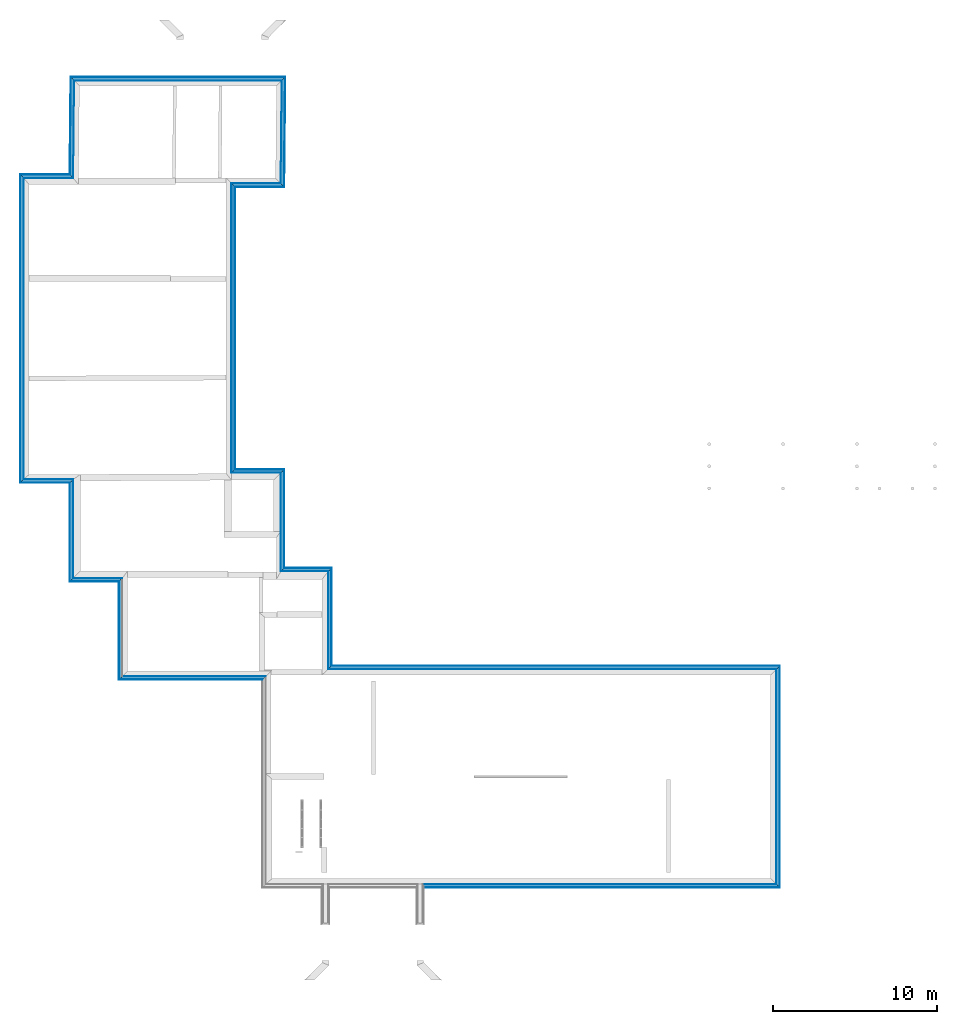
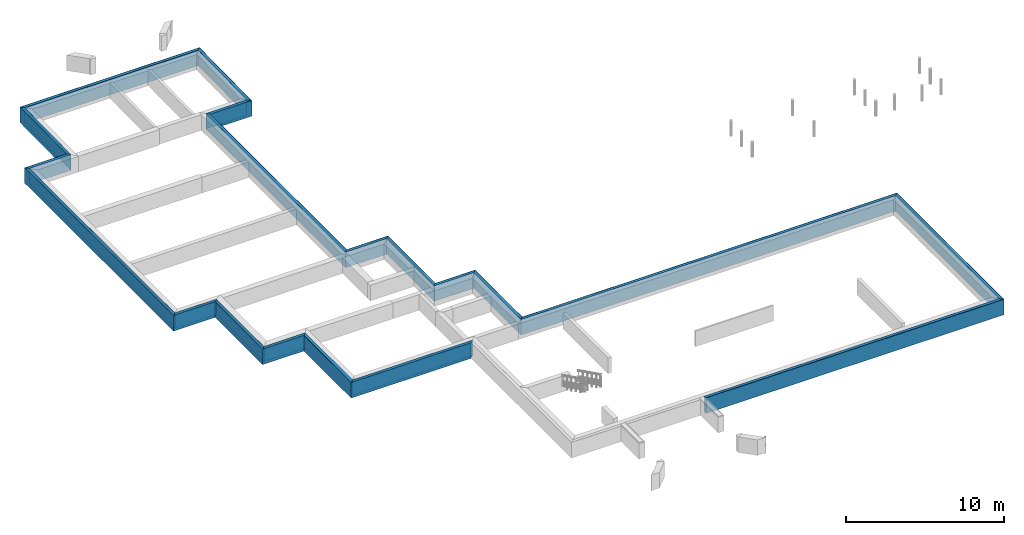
# One storey, part 12 of 16: 56 building element parts, 19 elements without a shape of their own.
"""IFC2X3 building model written with IfcOpenShell, lengths in millimetres."""

from ifc_helpers import new_model, entity, si_unit, converted_unit, derived_unit, money_unit, direction, frame, origin_with_axes, place, context, subcontext, project, spatial, polyline, outline, extrude, material, type_object, element, aggregate, save


model = new_model("IFC2X3")

# Units and contexts
model_context = context("Model", 3, precision=0.01, world=origin_with_axes(), true_north=direction((0.0, 1.0)))
body_context = subcontext(model_context, "Body", "Model", "MODEL_VIEW")
ifc_project = project(units=[si_unit("LENGTHUNIT", "METRE", prefix="MILLI"), si_unit("AREAUNIT", "SQUARE_METRE"), si_unit("VOLUMEUNIT", "CUBIC_METRE"), converted_unit("PLANEANGLEUNIT", "DEGREE", entity("IfcPlaneAngleMeasure", 0.0174532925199), si_unit("PLANEANGLEUNIT", "RADIAN"), dimensions=[0, 0, 0, 0, 0, 0, 0]), si_unit("SOLIDANGLEUNIT", "STERADIAN"), money_unit("EUR"), converted_unit("TIMEUNIT", "Year", entity("IfcTimeMeasure", 31556926.0), si_unit("TIMEUNIT", "SECOND"), dimensions=[0, 0, 1, 0, 0, 0, 0]), si_unit("MASSUNIT", "GRAM", prefix="KILO"), si_unit("THERMODYNAMICTEMPERATUREUNIT", "DEGREE_CELSIUS"), si_unit("LUMINOUSINTENSITYUNIT", "LUMEN"), si_unit("ENERGYUNIT", "JOULE", prefix="MEGA"), derived_unit("THERMALCONDUCTANCEUNIT", [(si_unit("POWERUNIT", "WATT"), 1), (si_unit("LENGTHUNIT", "METRE"), -1), (si_unit("THERMODYNAMICTEMPERATUREUNIT", "KELVIN"), -1)]), derived_unit("SPECIFICHEATCAPACITYUNIT", [(si_unit("ENERGYUNIT", "JOULE"), 1), (si_unit("MASSUNIT", "GRAM", prefix="KILO"), -1), (si_unit("THERMODYNAMICTEMPERATUREUNIT", "KELVIN"), -1)]), derived_unit("MASSDENSITYUNIT", [(si_unit("MASSUNIT", "GRAM", prefix="KILO"), 1), (si_unit("VOLUMEUNIT", "CUBIC_METRE"), -1)])], contexts=[model_context])

# Site, building, storey
site_placement = place(None, origin_with_axes())
site = spatial("IfcSite", under=ifc_project, at=site_placement, Name="Paldiski mnt 245/1, Tallinn, Harjumaa", CompositionType="COMPLEX")
building_placement = place(site_placement, origin_with_axes())
building = spatial("IfcBuilding", under=site, at=building_placement, Name="RKAS Hoone üldnimetus (kasutust iseloomustav) -> IFC Project Manager -> SOLIBRI", CompositionType="ELEMENT")
storey_placement = place(building_placement, frame((0.0, 0.0, -1200.0), z_axis=(0.0, 0.0, 1.0), x_axis=(1.0, 0.0, 0.0)))
storey = spatial("IfcBuildingStorey", under=building, at=storey_placement, Name="Vundament", CompositionType="ELEMENT", Elevation=-1200.0)

# Wall, building element parts
wall_type = type_object("IfcWallType", Name="VS-01 221", PredefinedType="NOTDEFINED")
wall_1_placement = place(storey_placement, frame((-59705.9835288, 30149.8287244, 0.0), z_axis=(0.0, 0.0, 1.0), x_axis=(-1.0, 0.0, 0.0)))
wall_1 = element("IfcWall", 1, at=wall_1_placement, inside=storey, type_object=wall_type, Name="VS-01")
ifc_material_1 = material(Name="Võõphüdroisolatsioon")
building_element_part_1_placement = place(wall_1_placement, origin_with_axes())
building_element_part_1 = element("IfcBuildingElementPart", 2, at=building_element_part_1_placement, material=ifc_material_1, Name="Võõphüdroisolatsioon", context=body_context, shape_type="SweptSolid", body=[
    extrude(outline(polyline([(0.98996898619, -1.0), (3025.01647115, -1.0), (3024.01647115, 0.0), (0.0, 0.0), (0.98996898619, -1.0)])), origin_with_axes(), (0.0, 0.0, 1.0), 1200.0),
])
ifc_material_2 = material(Name="EPS 120 Perimeeter")
building_element_part_2_placement = place(wall_1_placement, origin_with_axes())
building_element_part_2 = element("IfcBuildingElementPart", 3, at=building_element_part_2_placement, material=ifc_material_2, Name="EPS 120 Perimeeter", context=body_context, shape_type="SweptSolid", body=[
    extrude(outline(polyline([(198.983766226, -201.0), (3225.01647115, -201.0), (3025.01647115, -1.0), (0.98996898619, -1.0), (198.983766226, -201.0)])), origin_with_axes(), (0.0, 0.0, 1.0), 1200.0),
])
ifc_material_3 = material(Name="Krohvisüsteem Weber vms")
building_element_part_3_placement = place(wall_1_placement, origin_with_axes())
building_element_part_3 = element("IfcBuildingElementPart", 4, at=building_element_part_3_placement, material=ifc_material_3, Name="Krohvisüsteem Weber vms", context=body_context, shape_type="SweptSolid", body=[
    extrude(outline(polyline([(218.78314595, -221.0), (3245.01647115, -221.0), (3225.01647115, -201.0), (198.983766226, -201.0), (218.78314595, -221.0)])), origin_with_axes(), (0.0, 0.0, 1.0), 1200.0),
])
aggregate(wall_1, [building_element_part_1, building_element_part_2, building_element_part_3])

wall_2_placement = place(storey_placement, frame((-62730.0, 30149.8287244, 0.0), z_axis=(0.0, 0.0, 1.0), x_axis=(0.0, -1.0, 0.0)))
wall_2 = element("IfcWall", 5, at=wall_2_placement, inside=storey, type_object=wall_type, Name="VS-01")
building_element_part_4_placement = place(wall_2_placement, origin_with_axes())
building_element_part_4 = element("IfcBuildingElementPart", 6, at=building_element_part_4_placement, material=ifc_material_1, Name="Võõphüdroisolatsioon", context=body_context, shape_type="SweptSolid", body=[
    extrude(outline(polyline([(-1.0, -0.999999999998), (18351.0, -0.999999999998), (18350.0, 0.0), (0.0, 0.0), (-1.0, -0.999999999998)])), origin_with_axes(), (0.0, 0.0, 1.0), 1200.0),
])
building_element_part_5_placement = place(wall_2_placement, origin_with_axes())
building_element_part_5 = element("IfcBuildingElementPart", 7, at=building_element_part_5_placement, material=ifc_material_2, Name="EPS 120 Perimeeter", context=body_context, shape_type="SweptSolid", body=[
    extrude(outline(polyline([(-201.0, -201.0), (18551.0, -201.0), (18351.0, -0.999999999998), (-1.0, -0.999999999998), (-201.0, -201.0)])), origin_with_axes(), (0.0, 0.0, 1.0), 1200.0),
])
building_element_part_6_placement = place(wall_2_placement, origin_with_axes())
building_element_part_6 = element("IfcBuildingElementPart", 8, at=building_element_part_6_placement, material=ifc_material_3, Name="Krohvisüsteem Weber vms", context=body_context, shape_type="SweptSolid", body=[
    extrude(outline(polyline([(-221.0, -221.0), (18571.0, -221.0), (18551.0, -201.0), (-201.0, -201.0), (-221.0, -221.0)])), origin_with_axes(), (0.0, 0.0, 1.0), 1200.0),
])
aggregate(wall_2, [building_element_part_4, building_element_part_5, building_element_part_6])

wall_3_placement = place(storey_placement, frame((-62730.0, 11799.8287244, 0.0), z_axis=(0.0, 0.0, 1.0), x_axis=(1.0, 0.0, 0.0)))
wall_3 = element("IfcWall", 9, at=wall_3_placement, inside=storey, type_object=wall_type, Name="VS-01")
building_element_part_7_placement = place(wall_3_placement, origin_with_axes())
building_element_part_7 = element("IfcBuildingElementPart", 10, at=building_element_part_7_placement, material=ifc_material_1, Name="Võõphüdroisolatsioon", context=body_context, shape_type="SweptSolid", body=[
    extrude(outline(polyline([(-0.999999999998, -0.999999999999), (3019.0, -0.999999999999), (3020.0, 0.0), (0.0, 0.0), (-0.999999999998, -0.999999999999)])), origin_with_axes(), (0.0, 0.0, 1.0), 1200.0),
])
building_element_part_8_placement = place(wall_3_placement, origin_with_axes())
building_element_part_8 = element("IfcBuildingElementPart", 11, at=building_element_part_8_placement, material=ifc_material_2, Name="EPS 120 Perimeeter", context=body_context, shape_type="SweptSolid", body=[
    extrude(outline(polyline([(-201.0, -201.0), (2819.0, -201.0), (3019.0, -0.999999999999), (-0.999999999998, -0.999999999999), (-201.0, -201.0)])), origin_with_axes(), (0.0, 0.0, 1.0), 1200.0),
])
building_element_part_9_placement = place(wall_3_placement, origin_with_axes())
building_element_part_9 = element("IfcBuildingElementPart", 12, at=building_element_part_9_placement, material=ifc_material_3, Name="Krohvisüsteem Weber vms", context=body_context, shape_type="SweptSolid", body=[
    extrude(outline(polyline([(-221.0, -221.0), (2799.0, -221.0), (2819.0, -201.0), (-201.0, -201.0), (-221.0, -221.0)])), origin_with_axes(), (0.0, 0.0, 1.0), 1200.0),
])
aggregate(wall_3, [building_element_part_7, building_element_part_8, building_element_part_9])

wall_4_placement = place(storey_placement, frame((-59710.0, 11799.8287244, 0.0), z_axis=(0.0, 0.0, 1.0), x_axis=(0.0, -1.0, 0.0)))
wall_4 = element("IfcWall", 13, at=wall_4_placement, inside=storey, type_object=wall_type, Name="VS-01")
building_element_part_10_placement = place(wall_4_placement, origin_with_axes())
building_element_part_10 = element("IfcBuildingElementPart", 14, at=building_element_part_10_placement, material=ifc_material_1, Name="Võõphüdroisolatsioon", context=body_context, shape_type="SweptSolid", body=[
    extrude(outline(polyline([(1.00000000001, -0.999999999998), (6010.82872435, -0.999999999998), (6009.82872435, 0.0), (0.0, 0.0), (1.00000000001, -0.999999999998)])), origin_with_axes(), (0.0, 0.0, 1.0), 1200.0),
])
building_element_part_11_placement = place(wall_4_placement, origin_with_axes())
building_element_part_11 = element("IfcBuildingElementPart", 15, at=building_element_part_11_placement, material=ifc_material_2, Name="EPS 120 Perimeeter", context=body_context, shape_type="SweptSolid", body=[
    extrude(outline(polyline([(201.0, -201.0), (6210.82872435, -201.0), (6010.82872435, -0.999999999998), (1.00000000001, -0.999999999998), (201.0, -201.0)])), origin_with_axes(), (0.0, 0.0, 1.0), 1200.0),
])
building_element_part_12_placement = place(wall_4_placement, origin_with_axes())
building_element_part_12 = element("IfcBuildingElementPart", 16, at=building_element_part_12_placement, material=ifc_material_3, Name="Krohvisüsteem Weber vms", context=body_context, shape_type="SweptSolid", body=[
    extrude(outline(polyline([(221.0, -221.0), (6230.82872435, -221.0), (6210.82872435, -201.0), (201.0, -201.0), (221.0, -221.0)])), origin_with_axes(), (0.0, 0.0, 1.0), 1200.0),
])
aggregate(wall_4, [building_element_part_10, building_element_part_11, building_element_part_12])

wall_5_placement = place(storey_placement, frame((-59710.0, 5790.0, 0.0), z_axis=(0.0, 0.0, 1.0), x_axis=(1.0, 0.0, 0.0)))
wall_5 = element("IfcWall", 17, at=wall_5_placement, inside=storey, type_object=wall_type, Name="VS-01")
building_element_part_13_placement = place(wall_5_placement, origin_with_axes())
building_element_part_13 = element("IfcBuildingElementPart", 18, at=building_element_part_13_placement, material=ifc_material_1, Name="Võõphüdroisolatsioon", context=body_context, shape_type="SweptSolid", body=[
    extrude(outline(polyline([(-1.0, -1.0), (2999.0, -1.0), (3000.0, 0.0), (0.0, 0.0), (-1.0, -1.0)])), origin_with_axes(), (0.0, 0.0, 1.0), 1200.0),
])
building_element_part_14_placement = place(wall_5_placement, origin_with_axes())
building_element_part_14 = element("IfcBuildingElementPart", 19, at=building_element_part_14_placement, material=ifc_material_2, Name="EPS 120 Perimeeter", context=body_context, shape_type="SweptSolid", body=[
    extrude(outline(polyline([(-201.0, -201.0), (2799.0, -201.0), (2999.0, -1.0), (-1.0, -1.0), (-201.0, -201.0)])), origin_with_axes(), (0.0, 0.0, 1.0), 1200.0),
])
building_element_part_15_placement = place(wall_5_placement, origin_with_axes())
building_element_part_15 = element("IfcBuildingElementPart", 20, at=building_element_part_15_placement, material=ifc_material_3, Name="Krohvisüsteem Weber vms", context=body_context, shape_type="SweptSolid", body=[
    extrude(outline(polyline([(-221.0, -221.0), (2779.0, -221.0), (2799.0, -201.0), (-201.0, -201.0), (-221.0, -221.0)])), origin_with_axes(), (0.0, 0.0, 1.0), 1200.0),
])
aggregate(wall_5, [building_element_part_13, building_element_part_14, building_element_part_15])

wall_6_placement = place(storey_placement, frame((-56710.0, 5790.0, 0.0), z_axis=(0.0, 0.0, 1.0), x_axis=(0.0, -1.0, 0.0)))
wall_6 = element("IfcWall", 21, at=wall_6_placement, inside=storey, type_object=wall_type, Name="VS-01")
building_element_part_16_placement = place(wall_6_placement, origin_with_axes())
building_element_part_16 = element("IfcBuildingElementPart", 22, at=building_element_part_16_placement, material=ifc_material_2, Name="EPS 120 Perimeeter", context=body_context, shape_type="SweptSolid", body=[
    extrude(outline(polyline([(201.0, -201.0), (6181.0, -201.0), (5981.0, -0.999999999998), (1.00000000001, -0.999999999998), (201.0, -201.0)])), origin_with_axes(), (0.0, 0.0, 1.0), 1200.0),
])
building_element_part_17_placement = place(wall_6_placement, origin_with_axes())
building_element_part_17 = element("IfcBuildingElementPart", 23, at=building_element_part_17_placement, material=ifc_material_3, Name="Krohvisüsteem Weber vms", context=body_context, shape_type="SweptSolid", body=[
    extrude(outline(polyline([(221.0, -221.0), (6201.0, -221.0), (6181.0, -201.0), (201.0, -201.0), (221.0, -221.0)])), origin_with_axes(), (0.0, 0.0, 1.0), 1200.0),
])
aggregate(wall_6, [building_element_part_16, building_element_part_17])

wall_7_placement = place(storey_placement, frame((-56710.0, -189.999999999, 0.0), z_axis=(0.0, 0.0, 1.0), x_axis=(1.0, 0.0, 0.0)))
wall_7 = element("IfcWall", 24, at=wall_7_placement, inside=storey, type_object=wall_type, Name="VS-01")
building_element_part_18_placement = place(wall_7_placement, origin_with_axes())
building_element_part_18 = element("IfcBuildingElementPart", 25, at=building_element_part_18_placement, material=ifc_material_1, Name="Võõphüdroisolatsioon", context=body_context, shape_type="SweptSolid", body=[
    extrude(outline(polyline([(-0.999999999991, -1.0), (8739.0, -1.0), (8740.0, 0.0), (0.0, 0.0), (-0.999999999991, -1.0)])), origin_with_axes(), (0.0, 0.0, 1.0), 1200.0),
])
building_element_part_19_placement = place(wall_7_placement, origin_with_axes())
building_element_part_19 = element("IfcBuildingElementPart", 26, at=building_element_part_19_placement, material=ifc_material_2, Name="EPS 120 Perimeeter", context=body_context, shape_type="SweptSolid", body=[
    extrude(outline(polyline([(-201.0, -201.0), (8539.0, -201.0), (8739.0, -1.0), (-0.999999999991, -1.0), (-201.0, -201.0)])), origin_with_axes(), (0.0, 0.0, 1.0), 1200.0),
])
building_element_part_20_placement = place(wall_7_placement, origin_with_axes())
building_element_part_20 = element("IfcBuildingElementPart", 27, at=building_element_part_20_placement, material=ifc_material_3, Name="Krohvisüsteem Weber vms", context=body_context, shape_type="SweptSolid", body=[
    extrude(outline(polyline([(-221.0, -221.0), (8519.0, -221.0), (8539.0, -201.0), (-201.0, -201.0), (-221.0, -221.0)])), origin_with_axes(), (0.0, 0.0, 1.0), 1200.0),
])
aggregate(wall_7, [building_element_part_18, building_element_part_19, building_element_part_20])

wall_8_placement = place(storey_placement, frame((-38420.0, -12850.0843011, 0.0), z_axis=(0.0, 0.0, 1.0), x_axis=(1.0, 0.0, 0.0)))
wall_8 = element("IfcWall", 28, at=wall_8_placement, inside=storey, type_object=wall_type, Name="VS-01")
building_element_part_21_placement = place(wall_8_placement, origin_with_axes())
building_element_part_21 = element("IfcBuildingElementPart", 29, at=building_element_part_21_placement, material=ifc_material_1, Name="Võõphüdroisolatsioon", context=body_context, shape_type="SweptSolid", body=[
    extrude(outline(polyline([(0.321266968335, -0.999999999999), (21531.0, -0.999999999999), (21530.0, 0.0), (0.0, 0.0), (0.321266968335, -0.999999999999)])), origin_with_axes(), (0.0, 0.0, 1.0), 1200.0),
])
building_element_part_22_placement = place(wall_8_placement, origin_with_axes())
building_element_part_22 = element("IfcBuildingElementPart", 30, at=building_element_part_22_placement, material=ifc_material_2, Name="EPS 120 Perimeeter", context=body_context, shape_type="SweptSolid", body=[
    extrude(outline(polyline([(64.5746606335, -201.0), (21731.0, -201.0), (21531.0, -0.999999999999), (0.321266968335, -0.999999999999), (64.5746606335, -201.0)])), origin_with_axes(), (0.0, 0.0, 1.0), 1200.0),
])
building_element_part_23_placement = place(wall_8_placement, origin_with_axes())
building_element_part_23 = element("IfcBuildingElementPart", 31, at=building_element_part_23_placement, material=ifc_material_3, Name="Krohvisüsteem Weber vms", context=body_context, shape_type="SweptSolid", body=[
    extrude(outline(polyline([(71.0, -221.0), (21751.0, -221.0), (21731.0, -201.0), (64.5746606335, -201.0), (71.0, -221.0)])), origin_with_axes(), (0.0, 0.0, 1.0), 1200.0),
])
aggregate(wall_8, [building_element_part_21, building_element_part_22, building_element_part_23])

wall_9_placement = place(storey_placement, frame((-16890.0, -12850.0843011, 0.0), z_axis=(0.0, 0.0, 1.0), x_axis=(0.0, 1.0, 0.0)))
wall_9 = element("IfcWall", 32, at=wall_9_placement, inside=storey, type_object=wall_type, Name="VS-01")
building_element_part_24_placement = place(wall_9_placement, origin_with_axes())
building_element_part_24 = element("IfcBuildingElementPart", 33, at=building_element_part_24_placement, material=ifc_material_1, Name="Võõphüdroisolatsioon", context=body_context, shape_type="SweptSolid", body=[
    extrude(outline(polyline([(-0.999999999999, -1.0), (13081.0843011, -1.0), (13080.0843011, 0.0), (0.0, 0.0), (-0.999999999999, -1.0)])), origin_with_axes(), (0.0, 0.0, 1.0), 1200.0),
])
building_element_part_25_placement = place(wall_9_placement, origin_with_axes())
building_element_part_25 = element("IfcBuildingElementPart", 34, at=building_element_part_25_placement, material=ifc_material_2, Name="EPS 120 Perimeeter", context=body_context, shape_type="SweptSolid", body=[
    extrude(outline(polyline([(-201.0, -201.0), (13281.0843011, -201.0), (13081.0843011, -1.0), (-0.999999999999, -1.0), (-201.0, -201.0)])), origin_with_axes(), (0.0, 0.0, 1.0), 1200.0),
])
building_element_part_26_placement = place(wall_9_placement, origin_with_axes())
building_element_part_26 = element("IfcBuildingElementPart", 35, at=building_element_part_26_placement, material=ifc_material_3, Name="Krohvisüsteem Weber vms", context=body_context, shape_type="SweptSolid", body=[
    extrude(outline(polyline([(-221.0, -221.0), (13301.0843011, -221.0), (13281.0843011, -201.0), (-201.0, -201.0), (-221.0, -221.0)])), origin_with_axes(), (0.0, 0.0, 1.0), 1200.0),
])
aggregate(wall_9, [building_element_part_24, building_element_part_25, building_element_part_26])

wall_10_placement = place(storey_placement, frame((-44180.5504586, 230.000000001, 0.0), z_axis=(0.0, 0.0, 1.0), x_axis=(0.0, 1.0, 0.0)))
wall_10 = element("IfcWall", 36, at=wall_10_placement, inside=storey, type_object=wall_type, Name="VS-01")
building_element_part_27_placement = place(wall_10_placement, origin_with_axes())
building_element_part_27 = element("IfcBuildingElementPart", 37, at=building_element_part_27_placement, material=ifc_material_1, Name="Võõphüdroisolatsioon", context=body_context, shape_type="SweptSolid", body=[
    extrude(outline(polyline([(0.999999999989, -0.999999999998), (5960.82872435, -0.999999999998), (5959.82872435, 0.0), (0.0, 0.0), (0.999999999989, -0.999999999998)])), origin_with_axes(), (0.0, 0.0, 1.0), 1200.0),
])
building_element_part_28_placement = place(wall_10_placement, origin_with_axes())
building_element_part_28 = element("IfcBuildingElementPart", 38, at=building_element_part_28_placement, material=ifc_material_2, Name="EPS 120 Perimeeter", context=body_context, shape_type="SweptSolid", body=[
    extrude(outline(polyline([(201.0, -201.0), (6160.82872435, -201.0), (5960.82872435, -0.999999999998), (0.999999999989, -0.999999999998), (201.0, -201.0)])), origin_with_axes(), (0.0, 0.0, 1.0), 1200.0),
])
building_element_part_29_placement = place(wall_10_placement, origin_with_axes())
building_element_part_29 = element("IfcBuildingElementPart", 39, at=building_element_part_29_placement, material=ifc_material_3, Name="Krohvisüsteem Weber vms", context=body_context, shape_type="SweptSolid", body=[
    extrude(outline(polyline([(221.0, -221.0), (6180.82872435, -221.0), (6160.82872435, -201.0), (201.0, -201.0), (221.0, -221.0)])), origin_with_axes(), (0.0, 0.0, 1.0), 1200.0),
])
aggregate(wall_10, [building_element_part_27, building_element_part_28, building_element_part_29])

wall_11_placement = place(storey_placement, frame((-44180.5504586, 6189.82872435, 0.0), z_axis=(0.0, 0.0, 1.0), x_axis=(-1.0, 0.0, 0.0)))
wall_11 = element("IfcWall", 40, at=wall_11_placement, inside=storey, type_object=wall_type, Name="VS-01")
building_element_part_30_placement = place(wall_11_placement, origin_with_axes())
building_element_part_30 = element("IfcBuildingElementPart", 41, at=building_element_part_30_placement, material=ifc_material_1, Name="Võõphüdroisolatsioon", context=body_context, shape_type="SweptSolid", body=[
    extrude(outline(polyline([(-0.999999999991, -1.0), (2888.44954137, -1.0), (2889.44954137, 0.0), (0.0, 0.0), (-0.999999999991, -1.0)])), origin_with_axes(), (0.0, 0.0, 1.0), 1200.0),
])
building_element_part_31_placement = place(wall_11_placement, origin_with_axes())
building_element_part_31 = element("IfcBuildingElementPart", 42, at=building_element_part_31_placement, material=ifc_material_2, Name="EPS 120 Perimeeter", context=body_context, shape_type="SweptSolid", body=[
    extrude(outline(polyline([(-201.0, -201.0), (2688.44954137, -201.0), (2888.44954137, -1.0), (-0.999999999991, -1.0), (-201.0, -201.0)])), origin_with_axes(), (0.0, 0.0, 1.0), 1200.0),
])
building_element_part_32_placement = place(wall_11_placement, origin_with_axes())
building_element_part_32 = element("IfcBuildingElementPart", 43, at=building_element_part_32_placement, material=ifc_material_3, Name="Krohvisüsteem Weber vms", context=body_context, shape_type="SweptSolid", body=[
    extrude(outline(polyline([(-221.0, -221.0), (2668.44954137, -221.0), (2688.44954137, -201.0), (-201.0, -201.0), (-221.0, -221.0)])), origin_with_axes(), (0.0, 0.0, 1.0), 1200.0),
])
aggregate(wall_11, [building_element_part_30, building_element_part_31, building_element_part_32])

wall_12_placement = place(storey_placement, frame((-47070.0, 6189.82872435, 0.0), z_axis=(0.0, 0.0, 1.0), x_axis=(0.0, 1.0, 0.0)))
wall_12 = element("IfcWall", 44, at=wall_12_placement, inside=storey, type_object=wall_type, Name="VS-01")
building_element_part_33_placement = place(wall_12_placement, origin_with_axes())
building_element_part_33 = element("IfcBuildingElementPart", 45, at=building_element_part_33_placement, material=ifc_material_1, Name="Võõphüdroisolatsioon", context=body_context, shape_type="SweptSolid", body=[
    extrude(outline(polyline([(0.999999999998, -0.999999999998), (6001.0, -0.999999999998), (6000.0, 0.0), (0.0, 0.0), (0.999999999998, -0.999999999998)])), origin_with_axes(), (0.0, 0.0, 1.0), 1200.0),
])
building_element_part_34_placement = place(wall_12_placement, origin_with_axes())
building_element_part_34 = element("IfcBuildingElementPart", 46, at=building_element_part_34_placement, material=ifc_material_2, Name="EPS 120 Perimeeter", context=body_context, shape_type="SweptSolid", body=[
    extrude(outline(polyline([(201.0, -201.0), (6201.0, -201.0), (6001.0, -0.999999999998), (0.999999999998, -0.999999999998), (201.0, -201.0)])), origin_with_axes(), (0.0, 0.0, 1.0), 1200.0),
])
building_element_part_35_placement = place(wall_12_placement, origin_with_axes())
building_element_part_35 = element("IfcBuildingElementPart", 47, at=building_element_part_35_placement, material=ifc_material_3, Name="Krohvisüsteem Weber vms", context=body_context, shape_type="SweptSolid", body=[
    extrude(outline(polyline([(221.0, -221.0), (6221.0, -221.0), (6201.0, -201.0), (201.0, -201.0), (221.0, -221.0)])), origin_with_axes(), (0.0, 0.0, 1.0), 1200.0),
])
aggregate(wall_12, [building_element_part_33, building_element_part_34, building_element_part_35])

wall_13_placement = place(storey_placement, frame((-47070.0, 12189.8287244, 0.0), z_axis=(0.0, 0.0, 1.0), x_axis=(-1.0, 0.0, 0.0)))
wall_13 = element("IfcWall", 48, at=wall_13_placement, inside=storey, type_object=wall_type, Name="VS-01")
building_element_part_36_placement = place(wall_13_placement, origin_with_axes())
building_element_part_36 = element("IfcBuildingElementPart", 49, at=building_element_part_36_placement, material=ifc_material_1, Name="Võõphüdroisolatsioon", context=body_context, shape_type="SweptSolid", body=[
    extrude(outline(polyline([(-0.999999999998, -0.999999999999), (2999.0, -0.999999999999), (3000.0, 0.0), (0.0, 0.0), (-0.999999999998, -0.999999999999)])), origin_with_axes(), (0.0, 0.0, 1.0), 1200.0),
])
building_element_part_37_placement = place(wall_13_placement, origin_with_axes())
building_element_part_37 = element("IfcBuildingElementPart", 50, at=building_element_part_37_placement, material=ifc_material_2, Name="EPS 120 Perimeeter", context=body_context, shape_type="SweptSolid", body=[
    extrude(outline(polyline([(-201.0, -201.0), (2799.0, -201.0), (2999.0, -0.999999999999), (-0.999999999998, -0.999999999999), (-201.0, -201.0)])), origin_with_axes(), (0.0, 0.0, 1.0), 1200.0),
])
building_element_part_38_placement = place(wall_13_placement, origin_with_axes())
building_element_part_38 = element("IfcBuildingElementPart", 51, at=building_element_part_38_placement, material=ifc_material_3, Name="Krohvisüsteem Weber vms", context=body_context, shape_type="SweptSolid", body=[
    extrude(outline(polyline([(-221.0, -221.0), (2779.0, -221.0), (2799.0, -201.0), (-201.0, -201.0), (-221.0, -221.0)])), origin_with_axes(), (0.0, 0.0, 1.0), 1200.0),
])
aggregate(wall_13, [building_element_part_36, building_element_part_37, building_element_part_38])

wall_14_placement = place(storey_placement, frame((-50070.0, 12189.8287244, 0.0), z_axis=(0.0, 0.0, 1.0), x_axis=(0.0, 1.0, 0.0)))
wall_14 = element("IfcWall", 52, at=wall_14_placement, inside=storey, type_object=wall_type, Name="VS-01")
building_element_part_39_placement = place(wall_14_placement, origin_with_axes())
building_element_part_39 = element("IfcBuildingElementPart", 53, at=building_element_part_39_placement, material=ifc_material_1, Name="Võõphüdroisolatsioon", context=body_context, shape_type="SweptSolid", body=[
    extrude(outline(polyline([(0.999999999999, -0.999999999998), (17629.0, -0.999999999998), (17630.0, 0.0), (0.0, 0.0), (0.999999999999, -0.999999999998)])), origin_with_axes(), (0.0, 0.0, 1.0), 1200.0),
])
building_element_part_40_placement = place(wall_14_placement, origin_with_axes())
building_element_part_40 = element("IfcBuildingElementPart", 54, at=building_element_part_40_placement, material=ifc_material_2, Name="EPS 120 Perimeeter", context=body_context, shape_type="SweptSolid", body=[
    extrude(outline(polyline([(201.0, -201.0), (17429.0, -201.0), (17629.0, -0.999999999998), (0.999999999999, -0.999999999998), (201.0, -201.0)])), origin_with_axes(), (0.0, 0.0, 1.0), 1200.0),
])
building_element_part_41_placement = place(wall_14_placement, origin_with_axes())
building_element_part_41 = element("IfcBuildingElementPart", 55, at=building_element_part_41_placement, material=ifc_material_3, Name="Krohvisüsteem Weber vms", context=body_context, shape_type="SweptSolid", body=[
    extrude(outline(polyline([(221.0, -221.0), (17409.0, -221.0), (17429.0, -201.0), (201.0, -201.0), (221.0, -221.0)])), origin_with_axes(), (0.0, 0.0, 1.0), 1200.0),
])
aggregate(wall_14, [building_element_part_39, building_element_part_40, building_element_part_41])

wall_15_placement = place(storey_placement, frame((-50070.0, 29819.8287244, 0.0), z_axis=(0.0, 0.0, 1.0), x_axis=(1.0, 0.0, 0.0)))
wall_15 = element("IfcWall", 56, at=wall_15_placement, inside=storey, type_object=wall_type, Name="VS-01")
building_element_part_42_placement = place(wall_15_placement, origin_with_axes())
building_element_part_42 = element("IfcBuildingElementPart", 57, at=building_element_part_42_placement, material=ifc_material_1, Name="Võõphüdroisolatsioon", context=body_context, shape_type="SweptSolid", body=[
    extrude(outline(polyline([(1.00000000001, -1.0), (3002.3200663, -1.0), (3001.33010273, 0.0), (0.0, 0.0), (1.00000000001, -1.0)])), origin_with_axes(), (0.0, 0.0, 1.0), 1200.0),
])
building_element_part_43_placement = place(wall_15_placement, origin_with_axes())
building_element_part_43 = element("IfcBuildingElementPart", 58, at=building_element_part_43_placement, material=ifc_material_2, Name="EPS 120 Perimeeter", context=body_context, shape_type="SweptSolid", body=[
    extrude(outline(polyline([(201.0, -201.0), (3200.31278042, -201.0), (3002.3200663, -1.0), (1.00000000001, -1.0), (201.0, -201.0)])), origin_with_axes(), (0.0, 0.0, 1.0), 1200.0),
])
building_element_part_44_placement = place(wall_15_placement, origin_with_axes())
building_element_part_44 = element("IfcBuildingElementPart", 59, at=building_element_part_44_placement, material=ifc_material_3, Name="Krohvisüsteem Weber vms", context=body_context, shape_type="SweptSolid", body=[
    extrude(outline(polyline([(221.0, -221.0), (3220.11205184, -221.0), (3200.31278042, -201.0), (201.0, -201.0), (221.0, -221.0)])), origin_with_axes(), (0.0, 0.0, 1.0), 1200.0),
])
aggregate(wall_15, [building_element_part_42, building_element_part_43, building_element_part_44])

wall_16_placement = place(storey_placement, frame((-47068.6698973, 29819.8287244, 0.0), z_axis=(0.0, 0.0, 1.0), x_axis=(0.0100867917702, 0.999949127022, 0.0)))
wall_16 = element("IfcWall", 60, at=wall_16_placement, inside=storey, type_object=wall_type, Name="VS-01")
building_element_part_45_placement = place(wall_16_placement, origin_with_axes())
building_element_part_45 = element("IfcBuildingElementPart", 61, at=building_element_part_45_placement, material=ifc_material_1, Name="Võõphüdroisolatsioon", context=body_context, shape_type="SweptSolid", body=[
    extrude(outline(polyline([(-0.989963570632, -0.999999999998), (6271.32912798, -0.999999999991), (6270.3189898, 0.0), (0.0, 0.0), (-0.989963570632, -0.999999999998)])), origin_with_axes(), (0.0, 0.0, 1.0), 1200.0),
])
building_element_part_46_placement = place(wall_16_placement, origin_with_axes())
building_element_part_46 = element("IfcBuildingElementPart", 62, at=building_element_part_46_placement, material=ifc_material_2, Name="EPS 120 Perimeeter", context=body_context, shape_type="SweptSolid", body=[
    extrude(outline(polyline([(-198.982677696, -201.0), (6473.35676408, -201.0), (6271.32912798, -0.999999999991), (-0.989963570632, -0.999999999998), (-198.982677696, -201.0)])), origin_with_axes(), (0.0, 0.0, 1.0), 1200.0),
])
building_element_part_47_placement = place(wall_16_placement, origin_with_axes())
building_element_part_47 = element("IfcBuildingElementPart", 63, at=building_element_part_47_placement, material=ifc_material_3, Name="Krohvisüsteem Weber vms", context=body_context, shape_type="SweptSolid", body=[
    extrude(outline(polyline([(-218.781949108, -221.0), (6493.55952769, -221.0), (6473.35676408, -201.0), (-198.982677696, -201.0), (-218.781949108, -221.0)])), origin_with_axes(), (0.0, 0.0, 1.0), 1200.0),
])
aggregate(wall_16, [building_element_part_45, building_element_part_46, building_element_part_47])

wall_17_placement = place(storey_placement, frame((-47005.4224953, 36089.8287244, 0.0), z_axis=(0.0, 0.0, 1.0), x_axis=(-1.0, 0.0, 0.0)))
wall_17 = element("IfcWall", 64, at=wall_17_placement, inside=storey, type_object=wall_type, Name="VS-01")
building_element_part_48_placement = place(wall_17_placement, origin_with_axes())
building_element_part_48 = element("IfcBuildingElementPart", 65, at=building_element_part_48_placement, material=ifc_material_1, Name="Võõphüdroisolatsioon", context=body_context, shape_type="SweptSolid", body=[
    extrude(outline(polyline([(-1.0101381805, -0.999999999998), (12641.6649074, -0.999999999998), (12640.6749384, 0.0), (0.0, 0.0), (-1.0101381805, -0.999999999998)])), origin_with_axes(), (0.0, 0.0, 1.0), 1200.0),
])
building_element_part_49_placement = place(wall_17_placement, origin_with_axes())
building_element_part_49 = element("IfcBuildingElementPart", 66, at=building_element_part_49_placement, material=ifc_material_2, Name="EPS 120 Perimeeter", context=body_context, shape_type="SweptSolid", body=[
    extrude(outline(polyline([(-203.037774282, -201.0), (12839.6587046, -201.0), (12641.6649074, -0.999999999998), (-1.0101381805, -0.999999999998), (-203.037774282, -201.0)])), origin_with_axes(), (0.0, 0.0, 1.0), 1200.0),
])
building_element_part_50_placement = place(wall_17_placement, origin_with_axes())
building_element_part_50 = element("IfcBuildingElementPart", 67, at=building_element_part_50_placement, material=ifc_material_3, Name="Krohvisüsteem Weber vms", context=body_context, shape_type="SweptSolid", body=[
    extrude(outline(polyline([(-223.240537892, -221.0), (12859.4580844, -221.0), (12839.6587046, -201.0), (-203.037774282, -201.0), (-223.240537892, -221.0)])), origin_with_axes(), (0.0, 0.0, 1.0), 1200.0),
])
aggregate(wall_17, [building_element_part_48, building_element_part_49, building_element_part_50])

wall_18_placement = place(storey_placement, frame((-59646.0974337, 36089.8287244, 0.0), z_axis=(0.0, 0.0, 1.0), x_axis=(-0.0100813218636, -0.999949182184, 0.0)))
wall_18 = element("IfcWall", 68, at=wall_18_placement, inside=storey, type_object=wall_type, Name="VS-01")
building_element_part_51_placement = place(wall_18_placement, origin_with_axes())
building_element_part_51 = element("IfcBuildingElementPart", 69, at=building_element_part_51_placement, material=ifc_material_1, Name="Võõphüdroisolatsioon", context=body_context, shape_type="SweptSolid", body=[
    extrude(outline(polyline([(-0.989968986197, -1.0), (5939.31190418, -1.0), (5940.30187317, 0.0), (0.0, 0.0), (-0.989968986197, -1.0)])), origin_with_axes(), (0.0, 0.0, 1.0), 1200.0),
])
building_element_part_52_placement = place(wall_18_placement, origin_with_axes())
building_element_part_52 = element("IfcBuildingElementPart", 70, at=building_element_part_52_placement, material=ifc_material_2, Name="EPS 120 Perimeeter", context=body_context, shape_type="SweptSolid", body=[
    extrude(outline(polyline([(-198.983766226, -201.0), (5741.31810694, -201.0), (5939.31190418, -1.0), (-0.989968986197, -1.0), (-198.983766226, -201.0)])), origin_with_axes(), (0.0, 0.0, 1.0), 1200.0),
])
building_element_part_53_placement = place(wall_18_placement, origin_with_axes())
building_element_part_53 = element("IfcBuildingElementPart", 71, at=building_element_part_53_placement, material=ifc_material_3, Name="Krohvisüsteem Weber vms", context=body_context, shape_type="SweptSolid", body=[
    extrude(outline(polyline([(-218.78314595, -221.0), (5721.51872722, -221.0), (5741.31810694, -201.0), (-198.983766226, -201.0), (-218.78314595, -221.0)])), origin_with_axes(), (0.0, 0.0, 1.0), 1200.0),
])
aggregate(wall_18, [building_element_part_51, building_element_part_52, building_element_part_53])

wall_19_placement = place(storey_placement, frame((-16890.0, 230.0, 0.0), z_axis=(0.0, 0.0, 1.0), x_axis=(-1.0, 0.0, 0.0)))
wall_19 = element("IfcWall", 72, at=wall_19_placement, inside=storey, type_object=wall_type, Name="VS-01")
building_element_part_54_placement = place(wall_19_placement, origin_with_axes())
building_element_part_54 = element("IfcBuildingElementPart", 73, at=building_element_part_54_placement, material=ifc_material_1, Name="Võõphüdroisolatsioon", context=body_context, shape_type="SweptSolid", body=[
    extrude(outline(polyline([(-1.0, -1.0), (27289.5504586, -1.0), (27290.5504586, 0.0), (0.0, 0.0), (-1.0, -1.0)])), origin_with_axes(), (0.0, 0.0, 1.0), 1200.0),
])
building_element_part_55_placement = place(wall_19_placement, origin_with_axes())
building_element_part_55 = element("IfcBuildingElementPart", 74, at=building_element_part_55_placement, material=ifc_material_2, Name="EPS 120 Perimeeter", context=body_context, shape_type="SweptSolid", body=[
    extrude(outline(polyline([(-201.0, -201.0), (27089.5504586, -201.0), (27289.5504586, -1.0), (-1.0, -1.0), (-201.0, -201.0)])), origin_with_axes(), (0.0, 0.0, 1.0), 1200.0),
])
building_element_part_56_placement = place(wall_19_placement, origin_with_axes())
building_element_part_56 = element("IfcBuildingElementPart", 75, at=building_element_part_56_placement, material=ifc_material_3, Name="Krohvisüsteem Weber vms", context=body_context, shape_type="SweptSolid", body=[
    extrude(outline(polyline([(-221.0, -221.0), (27069.5504586, -221.0), (27089.5504586, -201.0), (-201.0, -201.0), (-221.0, -221.0)])), origin_with_axes(), (0.0, 0.0, 1.0), 1200.0),
])
aggregate(wall_19, [building_element_part_54, building_element_part_55, building_element_part_56])

save(model, "model.ifc")
